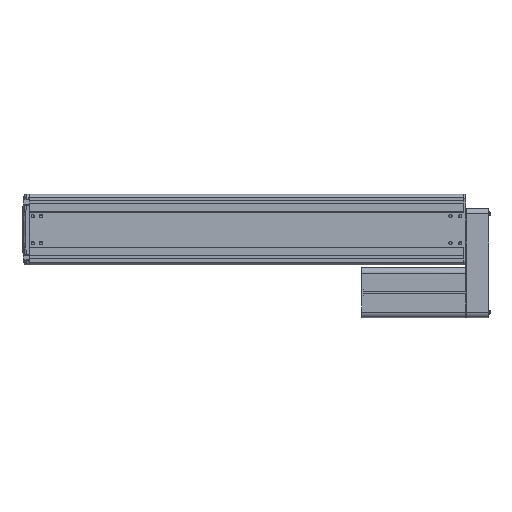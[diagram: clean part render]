
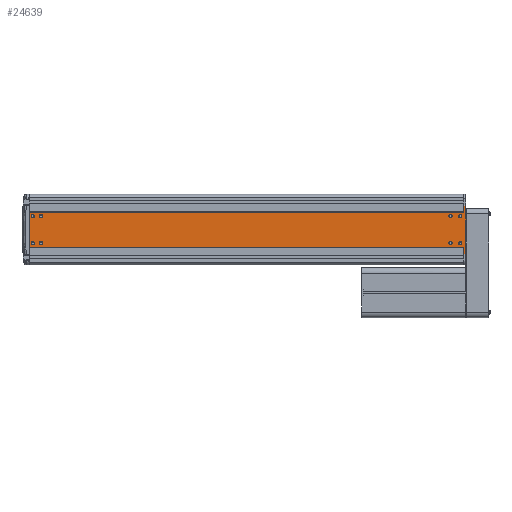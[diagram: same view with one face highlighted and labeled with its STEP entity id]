
A CAD part, front view. The second image highlights one B-rep face of the part: STEP entity #24639.
In plain terms, the highlighted planar face has unit normal (0, -1, 0).
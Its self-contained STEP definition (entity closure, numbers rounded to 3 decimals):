
#4253=CARTESIAN_POINT('',(-794.,1.5,-25.));
#4254=DIRECTION('',(0.,1.,0.));
#4255=DIRECTION('',(1.,0.,0.));
#4256=AXIS2_PLACEMENT_3D('',#4253,#4254,#4255);
#4258=CARTESIAN_POINT('',(-794.,1.5,-25.));
#4259=DIRECTION('',(0.,1.,0.));
#4260=DIRECTION('',(-1.,0.,0.));
#4261=AXIS2_PLACEMENT_3D('',#4258,#4259,#4260);
#4263=CARTESIAN_POINT('',(-794.,1.5,25.));
#4264=DIRECTION('',(0.,1.,0.));
#4265=DIRECTION('',(1.,0.,0.));
#4266=AXIS2_PLACEMENT_3D('',#4263,#4264,#4265);
#4268=CARTESIAN_POINT('',(-794.,1.5,25.));
#4269=DIRECTION('',(0.,1.,0.));
#4270=DIRECTION('',(-1.,0.,0.));
#4271=AXIS2_PLACEMENT_3D('',#4268,#4269,#4270);
#4273=CARTESIAN_POINT('',(-779.,1.5,-25.));
#4274=DIRECTION('',(0.,1.,0.));
#4275=DIRECTION('',(1.,0.,0.));
#4276=AXIS2_PLACEMENT_3D('',#4273,#4274,#4275);
#4278=CARTESIAN_POINT('',(-779.,1.5,-25.));
#4279=DIRECTION('',(0.,1.,0.));
#4280=DIRECTION('',(-1.,0.,0.));
#4281=AXIS2_PLACEMENT_3D('',#4278,#4279,#4280);
#4283=CARTESIAN_POINT('',(-779.,1.5,25.));
#4284=DIRECTION('',(0.,1.,0.));
#4285=DIRECTION('',(1.,0.,0.));
#4286=AXIS2_PLACEMENT_3D('',#4283,#4284,#4285);
#4288=CARTESIAN_POINT('',(-779.,1.5,25.));
#4289=DIRECTION('',(0.,1.,0.));
#4290=DIRECTION('',(-1.,0.,0.));
#4291=AXIS2_PLACEMENT_3D('',#4288,#4289,#4290);
#4293=CARTESIAN_POINT('',(-7.,1.5,-25.));
#4294=DIRECTION('',(0.,1.,0.));
#4295=DIRECTION('',(1.,0.,0.));
#4296=AXIS2_PLACEMENT_3D('',#4293,#4294,#4295);
#4298=CARTESIAN_POINT('',(-7.,1.5,-25.));
#4299=DIRECTION('',(0.,1.,0.));
#4300=DIRECTION('',(-1.,0.,0.));
#4301=AXIS2_PLACEMENT_3D('',#4298,#4299,#4300);
#4303=CARTESIAN_POINT('',(-7.,1.5,25.));
#4304=DIRECTION('',(0.,1.,0.));
#4305=DIRECTION('',(1.,0.,0.));
#4306=AXIS2_PLACEMENT_3D('',#4303,#4304,#4305);
#4308=CARTESIAN_POINT('',(-7.,1.5,25.));
#4309=DIRECTION('',(0.,1.,0.));
#4310=DIRECTION('',(-1.,0.,0.));
#4311=AXIS2_PLACEMENT_3D('',#4308,#4309,#4310);
#4313=CARTESIAN_POINT('',(-25.,1.5,-25.));
#4314=DIRECTION('',(0.,1.,0.));
#4315=DIRECTION('',(1.,0.,0.));
#4316=AXIS2_PLACEMENT_3D('',#4313,#4314,#4315);
#4318=CARTESIAN_POINT('',(-25.,1.5,-25.));
#4319=DIRECTION('',(0.,1.,0.));
#4320=DIRECTION('',(-1.,0.,0.));
#4321=AXIS2_PLACEMENT_3D('',#4318,#4319,#4320);
#4323=CARTESIAN_POINT('',(-25.,1.5,25.));
#4324=DIRECTION('',(0.,1.,0.));
#4325=DIRECTION('',(1.,0.,0.));
#4326=AXIS2_PLACEMENT_3D('',#4323,#4324,#4325);
#4328=CARTESIAN_POINT('',(-25.,1.5,25.));
#4329=DIRECTION('',(0.,1.,0.));
#4330=DIRECTION('',(-1.,0.,0.));
#4331=AXIS2_PLACEMENT_3D('',#4328,#4329,#4330);
#4333=DIRECTION('',(-1.,0.,0.));
#4334=VECTOR('',#4333,800.);
#4335=CARTESIAN_POINT('',(0.,1.5,32.));
#4336=LINE('',#4335,#4334);
#4337=DIRECTION('',(0.,0.,1.));
#4338=VECTOR('',#4337,88.);
#4339=CARTESIAN_POINT('',(3.,1.5,-44.));
#4340=LINE('',#4339,#4338);
#4341=DIRECTION('',(0.,0.,-1.));
#4342=VECTOR('',#4341,64.);
#4343=CARTESIAN_POINT('',(-800.,1.5,32.));
#4344=LINE('',#4343,#4342);
#4636=DIRECTION('',(0.,0.,1.));
#4637=VECTOR('',#4636,12.);
#4638=CARTESIAN_POINT('',(0.,1.5,32.));
#4639=LINE('',#4638,#4637);
#4688=DIRECTION('',(0.,0.,1.));
#4689=VECTOR('',#4688,12.);
#4690=CARTESIAN_POINT('',(0.,1.5,-44.));
#4691=LINE('',#4690,#4689);
#9029=DIRECTION('',(1.,0.,0.));
#9030=VECTOR('',#9029,3.);
#9031=CARTESIAN_POINT('',(0.,1.5,-44.));
#9032=LINE('',#9031,#9030);
#9353=DIRECTION('',(-1.,0.,0.));
#9354=VECTOR('',#9353,800.);
#9355=CARTESIAN_POINT('',(0.,1.5,-32.));
#9356=LINE('',#9355,#9354);
#11313=DIRECTION('',(-1.,0.,0.));
#11314=VECTOR('',#11313,3.);
#11315=CARTESIAN_POINT('',(3.,1.5,44.));
#11316=LINE('',#11315,#11314);
#15326=CARTESIAN_POINT('',(3.,1.5,44.));
#15327=VERTEX_POINT('',#15326);
#15328=CARTESIAN_POINT('',(3.,1.5,-44.));
#15329=VERTEX_POINT('',#15328);
#16661=CARTESIAN_POINT('',(-800.,1.5,-32.));
#16662=VERTEX_POINT('',#16661);
#16663=CARTESIAN_POINT('',(-800.,1.5,32.));
#16664=VERTEX_POINT('',#16663);
#16923=CARTESIAN_POINT('',(-791.5,1.5,-25.));
#16924=CARTESIAN_POINT('',(-796.5,1.5,-25.));
#16925=VERTEX_POINT('',#16923);
#16926=VERTEX_POINT('',#16924);
#16927=CARTESIAN_POINT('',(-791.5,1.5,25.));
#16928=CARTESIAN_POINT('',(-796.5,1.5,25.));
#16929=VERTEX_POINT('',#16927);
#16930=VERTEX_POINT('',#16928);
#16931=CARTESIAN_POINT('',(-776.5,1.5,-25.));
#16932=CARTESIAN_POINT('',(-781.5,1.5,-25.));
#16933=VERTEX_POINT('',#16931);
#16934=VERTEX_POINT('',#16932);
#16935=CARTESIAN_POINT('',(-776.5,1.5,25.));
#16936=CARTESIAN_POINT('',(-781.5,1.5,25.));
#16937=VERTEX_POINT('',#16935);
#16938=VERTEX_POINT('',#16936);
#16939=CARTESIAN_POINT('',(-4.5,1.5,-25.));
#16940=CARTESIAN_POINT('',(-9.5,1.5,-25.));
#16941=VERTEX_POINT('',#16939);
#16942=VERTEX_POINT('',#16940);
#16943=CARTESIAN_POINT('',(-4.5,1.5,25.));
#16944=CARTESIAN_POINT('',(-9.5,1.5,25.));
#16945=VERTEX_POINT('',#16943);
#16946=VERTEX_POINT('',#16944);
#16947=CARTESIAN_POINT('',(-22.5,1.5,-25.));
#16948=CARTESIAN_POINT('',(-27.5,1.5,-25.));
#16949=VERTEX_POINT('',#16947);
#16950=VERTEX_POINT('',#16948);
#16951=CARTESIAN_POINT('',(-22.5,1.5,25.));
#16952=CARTESIAN_POINT('',(-27.5,1.5,25.));
#16953=VERTEX_POINT('',#16951);
#16954=VERTEX_POINT('',#16952);
#17888=CARTESIAN_POINT('',(0.,1.5,-44.));
#17889=VERTEX_POINT('',#17888);
#17890=CARTESIAN_POINT('',(0.,1.5,-32.));
#17891=VERTEX_POINT('',#17890);
#17892=CARTESIAN_POINT('',(0.,1.5,32.));
#17893=CARTESIAN_POINT('',(0.,1.5,44.));
#17894=VERTEX_POINT('',#17892);
#17895=VERTEX_POINT('',#17893);
#24570=CARTESIAN_POINT('',(-400.,1.5,0.));
#24571=DIRECTION('',(0.,1.,0.));
#24572=DIRECTION('',(0.,0.,-1.));
#24573=AXIS2_PLACEMENT_3D('',#24570,#24571,#24572);
#24574=PLANE('',#24573);
#24576=ORIENTED_EDGE('',*,*,#24575,.F.);
#24578=ORIENTED_EDGE('',*,*,#24577,.T.);
#24580=ORIENTED_EDGE('',*,*,#24579,.F.);
#24582=ORIENTED_EDGE('',*,*,#24581,.F.);
#24584=ORIENTED_EDGE('',*,*,#24583,.F.);
#24586=ORIENTED_EDGE('',*,*,#24585,.T.);
#24588=ORIENTED_EDGE('',*,*,#24587,.T.);
#24589=ORIENTED_EDGE('',*,*,#23612,.F.);
#24590=EDGE_LOOP('',(#24576,#24578,#24580,#24582,#24584,#24586,#24588,#24589));
#24591=FACE_OUTER_BOUND('',#24590,.F.);
#24593=ORIENTED_EDGE('',*,*,#24592,.F.);
#24595=ORIENTED_EDGE('',*,*,#24594,.F.);
#24596=EDGE_LOOP('',(#24593,#24595));
#24597=FACE_BOUND('',#24596,.F.);
#24599=ORIENTED_EDGE('',*,*,#24598,.F.);
#24601=ORIENTED_EDGE('',*,*,#24600,.F.);
#24602=EDGE_LOOP('',(#24599,#24601));
#24603=FACE_BOUND('',#24602,.F.);
#24605=ORIENTED_EDGE('',*,*,#24604,.F.);
#24607=ORIENTED_EDGE('',*,*,#24606,.F.);
#24608=EDGE_LOOP('',(#24605,#24607));
#24609=FACE_BOUND('',#24608,.F.);
#24610=ORIENTED_EDGE('',*,*,#24560,.F.);
#24612=ORIENTED_EDGE('',*,*,#24611,.F.);
#24613=EDGE_LOOP('',(#24610,#24612));
#24614=FACE_BOUND('',#24613,.F.);
#24616=ORIENTED_EDGE('',*,*,#24615,.F.);
#24618=ORIENTED_EDGE('',*,*,#24617,.F.);
#24619=EDGE_LOOP('',(#24616,#24618));
#24620=FACE_BOUND('',#24619,.F.);
#24622=ORIENTED_EDGE('',*,*,#24621,.F.);
#24624=ORIENTED_EDGE('',*,*,#24623,.F.);
#24625=EDGE_LOOP('',(#24622,#24624));
#24626=FACE_BOUND('',#24625,.F.);
#24628=ORIENTED_EDGE('',*,*,#24627,.F.);
#24630=ORIENTED_EDGE('',*,*,#24629,.F.);
#24631=EDGE_LOOP('',(#24628,#24630));
#24632=FACE_BOUND('',#24631,.F.);
#24634=ORIENTED_EDGE('',*,*,#24633,.F.);
#24636=ORIENTED_EDGE('',*,*,#24635,.F.);
#24637=EDGE_LOOP('',(#24634,#24636));
#24638=FACE_BOUND('',#24637,.F.);
#24639=ADVANCED_FACE('',(#24591,#24597,#24603,#24609,#24614,#24620,#24626,
#24632,#24638),#24574,.F.);
#4257=CIRCLE('',#4256,2.5);
#4262=CIRCLE('',#4261,2.5);
#4267=CIRCLE('',#4266,2.5);
#4272=CIRCLE('',#4271,2.5);
#4277=CIRCLE('',#4276,2.5);
#4282=CIRCLE('',#4281,2.5);
#4287=CIRCLE('',#4286,2.5);
#4292=CIRCLE('',#4291,2.5);
#4297=CIRCLE('',#4296,2.5);
#4302=CIRCLE('',#4301,2.5);
#4307=CIRCLE('',#4306,2.5);
#4312=CIRCLE('',#4311,2.5);
#4317=CIRCLE('',#4316,2.5);
#4322=CIRCLE('',#4321,2.5);
#4327=CIRCLE('',#4326,2.5);
#4332=CIRCLE('',#4331,2.5);
#23612=EDGE_CURVE('',#16664,#16662,#4344,.T.);
#24560=EDGE_CURVE('',#16941,#16942,#4297,.T.);
#24575=EDGE_CURVE('',#17894,#16664,#4336,.T.);
#24577=EDGE_CURVE('',#17894,#17895,#4639,.T.);
#24579=EDGE_CURVE('',#15327,#17895,#11316,.T.);
#24581=EDGE_CURVE('',#15329,#15327,#4340,.T.);
#24583=EDGE_CURVE('',#17889,#15329,#9032,.T.);
#24585=EDGE_CURVE('',#17889,#17891,#4691,.T.);
#24587=EDGE_CURVE('',#17891,#16662,#9356,.T.);
#24592=EDGE_CURVE('',#16929,#16930,#4267,.T.);
#24594=EDGE_CURVE('',#16930,#16929,#4272,.T.);
#24598=EDGE_CURVE('',#16933,#16934,#4277,.T.);
#24600=EDGE_CURVE('',#16934,#16933,#4282,.T.);
#24604=EDGE_CURVE('',#16937,#16938,#4287,.T.);
#24606=EDGE_CURVE('',#16938,#16937,#4292,.T.);
#24611=EDGE_CURVE('',#16942,#16941,#4302,.T.);
#24615=EDGE_CURVE('',#16945,#16946,#4307,.T.);
#24617=EDGE_CURVE('',#16946,#16945,#4312,.T.);
#24621=EDGE_CURVE('',#16949,#16950,#4317,.T.);
#24623=EDGE_CURVE('',#16950,#16949,#4322,.T.);
#24627=EDGE_CURVE('',#16953,#16954,#4327,.T.);
#24629=EDGE_CURVE('',#16954,#16953,#4332,.T.);
#24633=EDGE_CURVE('',#16925,#16926,#4257,.T.);
#24635=EDGE_CURVE('',#16926,#16925,#4262,.T.);
